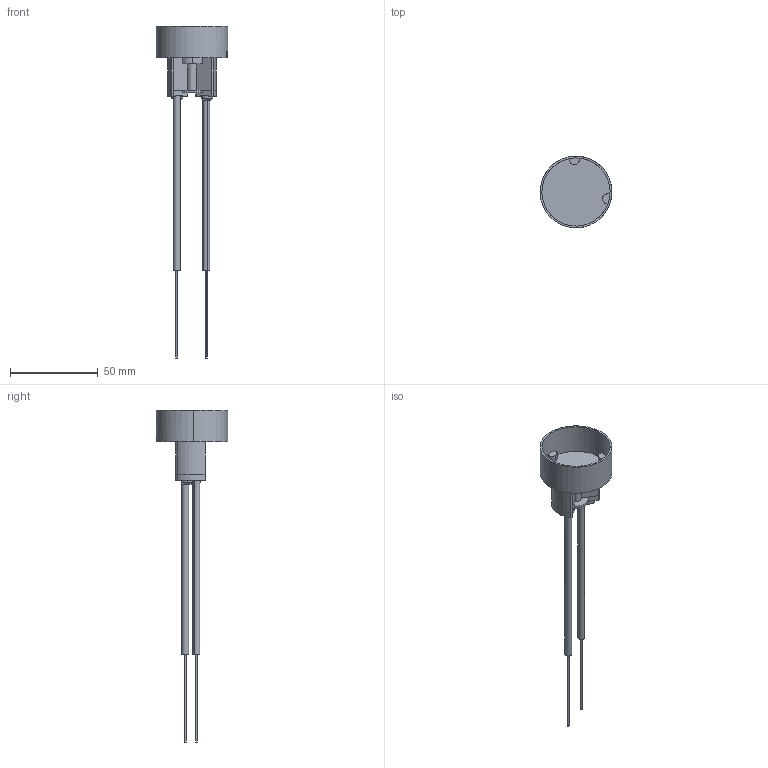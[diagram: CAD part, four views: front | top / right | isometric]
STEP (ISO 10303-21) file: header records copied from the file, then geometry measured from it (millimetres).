
FILE_DESCRIPTION (( 'STEP AP203' ), '1' );
FILE_NAME ('FR-10PRO.STEP', '2016-06-21T00:35:38', ( '' ), ( '' ), 'SwSTEP 2.0', 'SolidWorks 2014', '' );
FILE_SCHEMA (( 'CONFIG_CONTROL_DESIGN' ));
Length unit declared in the file: metre
Products named in the file (6): FR-10PRO; PROA10S-#-#-#-FR (2); PROA10S-#-#-#-FR (7); PROA10S-#-#-#-FR (3); PROA10S-#-#-#-FR (1); PROA10S-#-#-#-FR (5)
Assembly tree (9 placements, depth 2):
  FR-10PRO
    PROA10S-#-#-#-FR (2)
    PROA10S-#-#-#-FR (1)  x2
    PROA10S-#-#-#-FR (3)  x2
    PROA10S-#-#-#-FR (5)  x2
    PROA10S-#-#-#-FR (7)  x2
Bounding box: 40.97 x 40.98 x 189.7 mm (x, y, z)
Volume: 12453.5 mm3; surface area: 14308.8 mm2
Topology: 10 solids, 10 shells, 163 faces, 408 edges, 272 vertices
Faces by surface type: plane 81, cylinder 78, bspline 4
Entity records: 3788 total; most frequent: CARTESIAN_POINT 615, DIRECTION 552, ORIENTED_EDGE 492, EDGE_CURVE 246, AXIS2_PLACEMENT_3D 213, VERTEX_POINT 164, LINE 126, VECTOR 126
